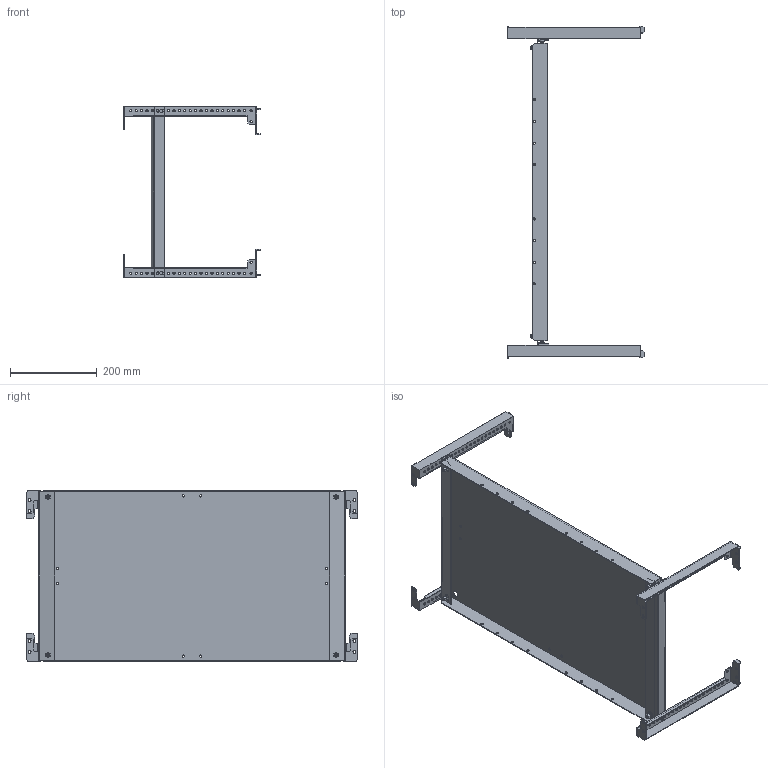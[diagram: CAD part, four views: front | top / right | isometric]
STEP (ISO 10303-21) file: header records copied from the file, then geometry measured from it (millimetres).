
FILE_DESCRIPTION (( 'STEP AP214' ), '1' );
FILE_NAME ('FO-00-MPU-040-080 Ïàíåëü ìîíòàæíàÿ óíèâåðñàëüíàÿ 400?800 ìì.STEP', '2025-07-16T07:08:04', ( '' ), ( '' ), 'SwSTEP 2.0', 'SolidWorks 2023', '' );
FILE_SCHEMA (( 'AUTOMOTIVE_DESIGN' ));
Length unit declared in the file: millimetre
Products named in the file (5): FO-00-MPU-040-080 Панель монтажная универсальная 400×800 мм; Траверса горизонтальная; Винты DIN 912 4xM6x20 400x800; Траверса горизонтальнаяD; Панель монтажная универсальная 400×800
Assembly tree (6 placements, depth 2):
  FO-00-MPU-040-080 Панель монтажная универсальная 400×800 мм
    Панель монтажная универсальная 400×800
    Винты DIN 912 4xM6x20 400x800
    Траверса горизонтальная  x2
    Траверса горизонтальнаяD  x2
Bounding box: 314.5 x 766 x 397 mm (x, y, z)
Volume: 983948.6 mm3; surface area: 1004136 mm2
Topology: 9 solids, 13 shells, 1010 faces, 2744 edges, 1808 vertices
Faces by surface type: cylinder 468, plane 454, cone 56, torus 32
Entity records: 26087 total; most frequent: CARTESIAN_POINT 5387, DIRECTION 4400, ORIENTED_EDGE 4156, EDGE_CURVE 2078, AXIS2_PLACEMENT_3D 1609, VERTEX_POINT 1364, LINE 1182, VECTOR 1182
